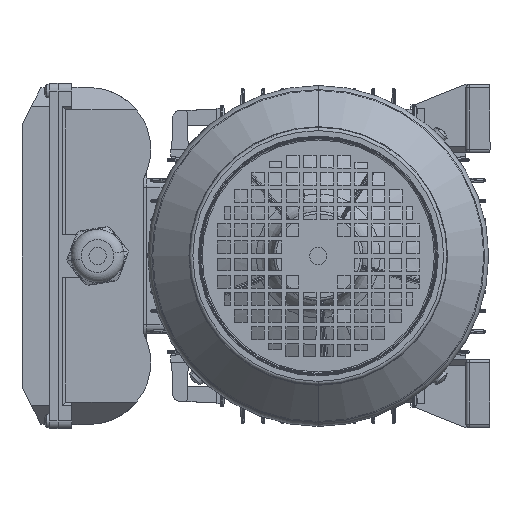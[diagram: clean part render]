
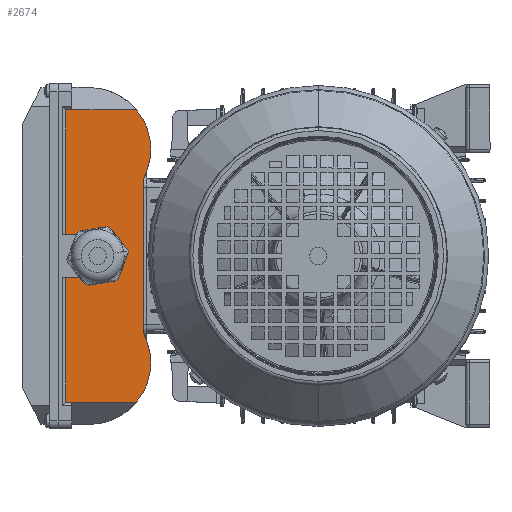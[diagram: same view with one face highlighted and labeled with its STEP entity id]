
A CAD part, left-side view. The second image highlights one B-rep face of the part: STEP entity #2674.
In plain terms, the highlighted planar face has unit normal (-1, 0, 0) as drawn and (0, 0, -1) by its records, which use the part's own axes.
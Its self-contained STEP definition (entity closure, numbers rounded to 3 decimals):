
#1868 = VECTOR ( 'NONE', #51294, 1000. ) ;
#2099 = VERTEX_POINT ( 'NONE', #71264 ) ;
#2674 = ADVANCED_FACE ( 'NONE', ( #29107 ), #134972, .F. ) ;
#8059 = VECTOR ( 'NONE', #15612, 1000. ) ;
#10685 = LINE ( 'NONE', #109697, #115980 ) ;
#13807 = VERTEX_POINT ( 'NONE', #25333 ) ;
#15612 = DIRECTION ( 'NONE',  ( 1., 0., 0. ) ) ;
#15756 = DIRECTION ( 'NONE',  ( 0., 0., 1. ) ) ;
#16789 = AXIS2_PLACEMENT_3D ( 'NONE', #39664, #97429, #50997 ) ;
#17556 = EDGE_CURVE ( 'NONE', #21655, #13807, #100712, .T. ) ;
#17815 = ORIENTED_EDGE ( 'NONE', *, *, #90467, .F. ) ;
#18099 = CARTESIAN_POINT ( 'NONE',  ( 44.572, -24.75, -68. ) ) ;
#18186 = VERTEX_POINT ( 'NONE', #48050 ) ;
#18538 = CARTESIAN_POINT ( 'NONE',  ( -119.5, -29.25, -68. ) ) ;
#18617 = CARTESIAN_POINT ( 'NONE',  ( 12.5, 1.75, -68. ) ) ;
#19157 = CIRCLE ( 'NONE', #16789, 36. ) ;
#19619 = VECTOR ( 'NONE', #88953, 1000. ) ;
#21655 = VERTEX_POINT ( 'NONE', #18099 ) ;
#21784 = LINE ( 'NONE', #55354, #56857 ) ;
#22143 = ORIENTED_EDGE ( 'NONE', *, *, #17556, .F. ) ;
#23336 = VERTEX_POINT ( 'NONE', #46988 ) ;
#23932 = ORIENTED_EDGE ( 'NONE', *, *, #71598, .F. ) ;
#25333 = CARTESIAN_POINT ( 'NONE',  ( 85.065, -20.891, -68. ) ) ;
#27055 = DIRECTION ( 'NONE',  ( 1., 0., 0. ) ) ;
#29107 = FACE_OUTER_BOUND ( 'NONE', #152503, .T. ) ;
#30561 = EDGE_CURVE ( 'NONE', #124248, #18186, #21784, .T. ) ;
#31155 = CARTESIAN_POINT ( 'NONE',  ( -85.065, -45.25, -68. ) ) ;
#32931 = EDGE_CURVE ( 'NONE', #126594, #121042, #98608, .T. ) ;
#34748 = ORIENTED_EDGE ( 'NONE', *, *, #149331, .T. ) ;
#35010 = DIRECTION ( 'NONE',  ( 0., -1., 0. ) ) ;
#38223 = CARTESIAN_POINT ( 'NONE',  ( 12.5, 1.75, -68. ) ) ;
#38470 = VERTEX_POINT ( 'NONE', #83384 ) ;
#39664 = CARTESIAN_POINT ( 'NONE',  ( -62., 6.75, -68. ) ) ;
#41258 = CARTESIAN_POINT ( 'NONE',  ( 0., 1.75, -68. ) ) ;
#43504 = EDGE_CURVE ( 'NONE', #38470, #18186, #113192, .T. ) ;
#44926 = ORIENTED_EDGE ( 'NONE', *, *, #78238, .F. ) ;
#46988 = CARTESIAN_POINT ( 'NONE',  ( 85.065, 20.25, -68. ) ) ;
#47150 = ORIENTED_EDGE ( 'NONE', *, *, #53583, .T. ) ;
#48050 = CARTESIAN_POINT ( 'NONE',  ( -12.5, 20.25, -68. ) ) ;
#50067 = DIRECTION ( 'NONE',  ( 0., -1., 0. ) ) ;
#50968 = LINE ( 'NONE', #31155, #19619 ) ;
#50997 = DIRECTION ( 'NONE',  ( 1., 0., 0. ) ) ;
#51294 = DIRECTION ( 'NONE',  ( 1., 0., 0. ) ) ;
#53121 = DIRECTION ( 'NONE',  ( 0., 0., -1. ) ) ;
#53583 = EDGE_CURVE ( 'NONE', #2099, #106395, #50968, .T. ) ;
#55352 = VERTEX_POINT ( 'NONE', #148123 ) ;
#55354 = CARTESIAN_POINT ( 'NONE',  ( -12.5, 1.75, -68. ) ) ;
#56857 = VECTOR ( 'NONE', #124477, 1000. ) ;
#57164 = CARTESIAN_POINT ( 'NONE',  ( 85.065, -29.25, -68. ) ) ;
#58662 = DIRECTION ( 'NONE',  ( 0., 1., 0. ) ) ;
#64389 = DIRECTION ( 'NONE',  ( 0., 0., 1. ) ) ;
#68447 = ORIENTED_EDGE ( 'NONE', *, *, #30561, .F. ) ;
#71264 = CARTESIAN_POINT ( 'NONE',  ( -85.065, -20.891, -68. ) ) ;
#71598 = EDGE_CURVE ( 'NONE', #121042, #124248, #88981, .T. ) ;
#76775 = DIRECTION ( 'NONE',  ( 1., 0., 0. ) ) ;
#78238 = EDGE_CURVE ( 'NONE', #2099, #55352, #19157, .T. ) ;
#82058 = VERTEX_POINT ( 'NONE', #112535 ) ;
#83384 = CARTESIAN_POINT ( 'NONE',  ( -85.065, 20.25, -68. ) ) ;
#85205 = EDGE_CURVE ( 'NONE', #23336, #82058, #112881, .T. ) ;
#88953 = DIRECTION ( 'NONE',  ( 0., 1., 0. ) ) ;
#88981 = CIRCLE ( 'NONE', #132537, 12.5 ) ;
#89453 = VECTOR ( 'NONE', #50067, 1000. ) ;
#90467 = EDGE_CURVE ( 'NONE', #55352, #21655, #138244, .T. ) ;
#91099 = ORIENTED_EDGE ( 'NONE', *, *, #128143, .T. ) ;
#94273 = CARTESIAN_POINT ( 'NONE',  ( 85.065, -45.25, -68. ) ) ;
#94916 = AXIS2_PLACEMENT_3D ( 'NONE', #18538, #64389, #76775 ) ;
#94934 = VECTOR ( 'NONE', #58662, 1000. ) ;
#97429 = DIRECTION ( 'NONE',  ( 0., 0., 1. ) ) ;
#97889 = CARTESIAN_POINT ( 'NONE',  ( 12.5, 20.25, -68. ) ) ;
#98608 = LINE ( 'NONE', #38223, #89453 ) ;
#100247 = CARTESIAN_POINT ( 'NONE',  ( -12.5, 1.75, -68. ) ) ;
#100712 = CIRCLE ( 'NONE', #117074, 36. ) ;
#102078 = VECTOR ( 'NONE', #108531, 1000. ) ;
#103416 = ORIENTED_EDGE ( 'NONE', *, *, #32931, .F. ) ;
#103850 = ORIENTED_EDGE ( 'NONE', *, *, #85205, .T. ) ;
#106395 = VERTEX_POINT ( 'NONE', #116443 ) ;
#107504 = CARTESIAN_POINT ( 'NONE',  ( -85.065, -29.25, -68. ) ) ;
#107803 = EDGE_CURVE ( 'NONE', #13807, #82058, #111504, .T. ) ;
#108531 = DIRECTION ( 'NONE',  ( 0., 1., 0. ) ) ;
#109697 = CARTESIAN_POINT ( 'NONE',  ( -119.5, 20.25, -68. ) ) ;
#110215 = DIRECTION ( 'NONE',  ( 1., 0., 0. ) ) ;
#111504 = LINE ( 'NONE', #94273, #94934 ) ;
#112535 = CARTESIAN_POINT ( 'NONE',  ( 85.065, 16.75, -68. ) ) ;
#112881 = LINE ( 'NONE', #57164, #147709 ) ;
#113192 = LINE ( 'NONE', #145434, #8059 ) ;
#115980 = VECTOR ( 'NONE', #110215, 1000. ) ;
#116443 = CARTESIAN_POINT ( 'NONE',  ( -85.065, 16.75, -68. ) ) ;
#117074 = AXIS2_PLACEMENT_3D ( 'NONE', #121912, #15756, #27055 ) ;
#121042 = VERTEX_POINT ( 'NONE', #18617 ) ;
#121912 = CARTESIAN_POINT ( 'NONE',  ( 62., 6.75, -68. ) ) ;
#124248 = VERTEX_POINT ( 'NONE', #100247 ) ;
#124477 = DIRECTION ( 'NONE',  ( 0., 1., 0. ) ) ;
#126594 = VERTEX_POINT ( 'NONE', #97889 ) ;
#128143 = EDGE_CURVE ( 'NONE', #126594, #23336, #10685, .T. ) ;
#132537 = AXIS2_PLACEMENT_3D ( 'NONE', #41258, #53121, #135531 ) ;
#133213 = CARTESIAN_POINT ( 'NONE',  ( -44.572, -24.75, -68. ) ) ;
#134972 = PLANE ( 'NONE',  #94916 ) ;
#135531 = DIRECTION ( 'NONE',  ( 1., 0., 0. ) ) ;
#137020 = LINE ( 'NONE', #107504, #102078 ) ;
#138244 = LINE ( 'NONE', #133213, #1868 ) ;
#139243 = ORIENTED_EDGE ( 'NONE', *, *, #107803, .F. ) ;
#145434 = CARTESIAN_POINT ( 'NONE',  ( -119.5, 20.25, -68. ) ) ;
#147709 = VECTOR ( 'NONE', #35010, 1000. ) ;
#148123 = CARTESIAN_POINT ( 'NONE',  ( -44.572, -24.75, -68. ) ) ;
#149331 = EDGE_CURVE ( 'NONE', #106395, #38470, #137020, .T. ) ;
#151955 = ORIENTED_EDGE ( 'NONE', *, *, #43504, .T. ) ;
#152503 = EDGE_LOOP ( 'NONE', ( #151955, #68447, #23932, #103416, #91099, #103850, #139243, #22143, #17815, #44926, #47150, #34748 ) ) ;
